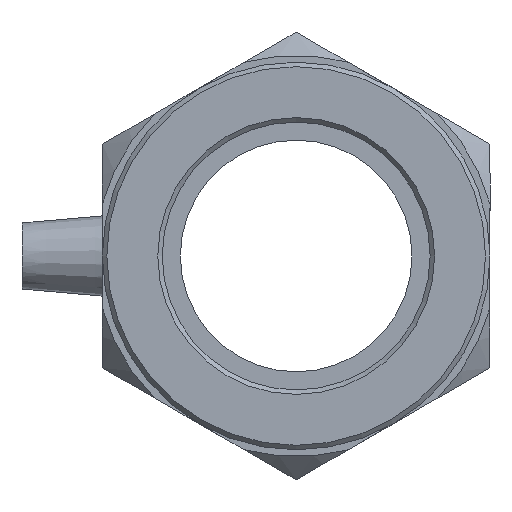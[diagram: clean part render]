
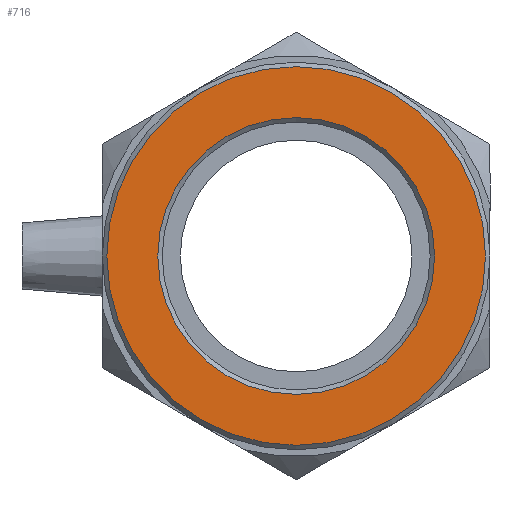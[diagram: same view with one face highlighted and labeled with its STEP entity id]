
A CAD part, left-side view. The second image highlights one B-rep face of the part: STEP entity #716.
In plain terms, the highlighted planar face has unit normal (-1, 0, 0).
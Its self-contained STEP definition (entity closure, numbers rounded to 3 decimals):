
#100=PLANE('',#778);
#127=FACE_BOUND('',#216,.T.);
#157=FACE_OUTER_BOUND('',#215,.T.);
#215=EDGE_LOOP('',(#510));
#216=EDGE_LOOP('',(#511));
#296=CIRCLE('',#777,29.273);
#297=CIRCLE('',#779,40.055);
#341=VERTEX_POINT('',#1106);
#342=VERTEX_POINT('',#1109);
#412=EDGE_CURVE('',#341,#341,#296,.T.);
#413=EDGE_CURVE('',#342,#342,#297,.T.);
#510=ORIENTED_EDGE('',*,*,#413,.F.);
#511=ORIENTED_EDGE('',*,*,#412,.F.);
#716=ADVANCED_FACE('',(#157,#127),#100,.T.);
#777=AXIS2_PLACEMENT_3D('',#1107,#887,#888);
#778=AXIS2_PLACEMENT_3D('',#1108,#889,#890);
#779=AXIS2_PLACEMENT_3D('',#1110,#891,#892);
#887=DIRECTION('center_axis',(-1.,0.,0.));
#888=DIRECTION('ref_axis',(0.,-1.,0.));
#889=DIRECTION('center_axis',(-1.,0.,0.));
#890=DIRECTION('ref_axis',(0.,0.,1.));
#891=DIRECTION('center_axis',(1.,0.,0.));
#892=DIRECTION('ref_axis',(0.,-1.,0.));
#1106=CARTESIAN_POINT('',(-120.5,29.273,0.));
#1107=CARTESIAN_POINT('Origin',(-120.5,0.,0.));
#1108=CARTESIAN_POINT('Origin',(-120.5,41.,0.));
#1109=CARTESIAN_POINT('',(-120.5,40.055,0.));
#1110=CARTESIAN_POINT('Origin',(-120.5,0.,0.));
